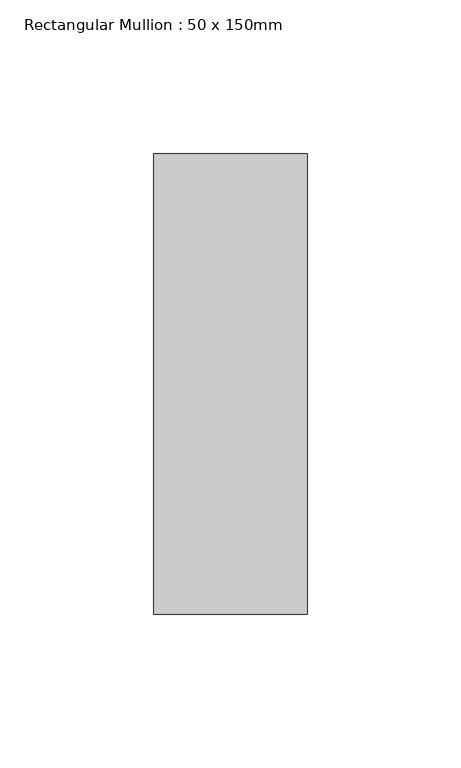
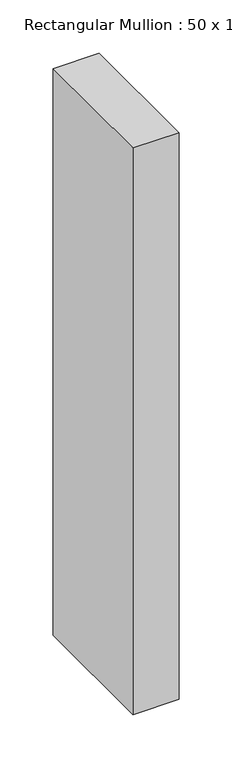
"""IFC4 building model written with IfcOpenShell, lengths in millimetres: member geometry, Rectangular Mullion : 50 x 150mm."""

from ifc_helpers import new_model, si_unit, frame, origin, place, context, project, spatial, polyline, outline, extrude, source, transform, mapped, element, save


def rectangular_mullion_50_x_150mm_9d7ed0e7(model_context):
    return source(origin(), model_context, "Body", "SweptSolid", [
        extrude(outline(polyline([(0.0, 75.0), (0.0, -75.0), (-50.0, -75.0), (-50.0, 75.0), (0.0, 75.0)])), frame((0.0, 0.0, -649.9999998), z_axis=(0.0, 0.0, 1.0), x_axis=(1.0, 0.0, 0.0)), (0.0, 0.0, 1.0), 649.9999998),
    ])


if __name__ == "__main__":
    model = new_model("IFC4")
    model_context = context("Model", 3, world=origin())
    ifc_project = project(units=[si_unit("LENGTHUNIT", "METRE", prefix="MILLI")], contexts=[model_context])
    site = spatial("IfcSite", under=ifc_project)
    building = spatial("IfcBuilding", under=site)
    placement = place(None, origin())
    rectangular_mullion_50_x_150mm_shape = rectangular_mullion_50_x_150mm_9d7ed0e7(model_context)
    element("IfcMember", 1, ObjectType="Rectangular Mullion : 50 x 150mm", at=placement, inside=building, context=model_context, shape_type="MappedRepresentation", body=[
        mapped(rectangular_mullion_50_x_150mm_shape, transform((0.0, 0.0, 0.0), x_axis=(1.0, 0.0, 0.0), y_axis=(0.0, 1.0, 0.0), z_axis=(0.0, 0.0, 1.0))),
    ])
    save(model, "model.ifc")
